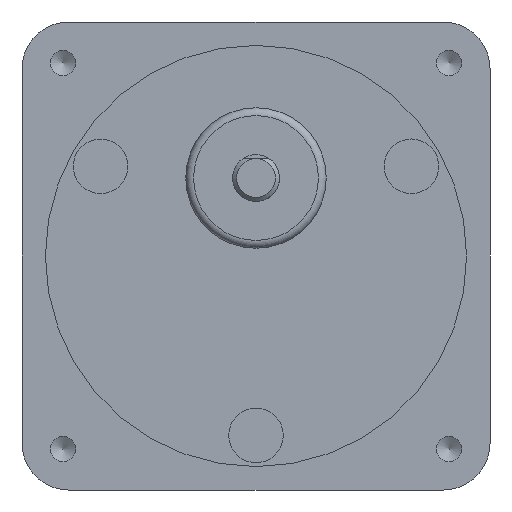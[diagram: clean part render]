
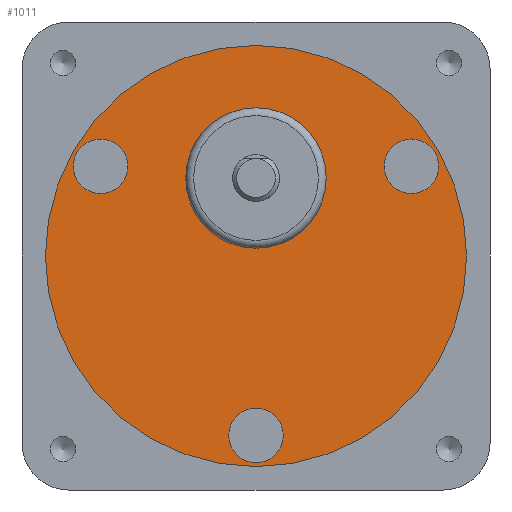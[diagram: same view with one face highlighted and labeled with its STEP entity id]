
A CAD part, front view. The second image highlights one B-rep face of the part: STEP entity #1011.
In plain terms, the highlighted planar face has unit normal (0, -1, 0).
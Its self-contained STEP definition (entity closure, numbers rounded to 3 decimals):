
#514=CARTESIAN_POINT('',(9.,-3.5,10.));
#515=VERTEX_POINT('',#514);
#516=CARTESIAN_POINT('',(0.,-3.5,10.));
#517=DIRECTION('',(0.0,-1.0,0.0));
#518=DIRECTION('',(-1.0,0.0,0.0));
#519=AXIS2_PLACEMENT_3D('',#516,#517,#518);
#520=CIRCLE('',#519,9.0);
#521=EDGE_CURVE('',#515,#515,#520,.T.);
#959=CARTESIAN_POINT('',(0.,-3.5,0.));
#960=DIRECTION('',(0.0,1.0,0.0));
#961=DIRECTION('',(0.0,0.0,1.0));
#962=AXIS2_PLACEMENT_3D('',#959,#960,#961);
#963=PLANE('',#962);
#964=CARTESIAN_POINT('',(27.,-3.5,0.));
#965=VERTEX_POINT('',#964);
#966=CARTESIAN_POINT('',(0.,-3.5,0.));
#967=DIRECTION('',(0.0,-1.0,0.0));
#968=DIRECTION('',(-1.0,0.0,0.0));
#969=AXIS2_PLACEMENT_3D('',#966,#967,#968);
#970=CIRCLE('',#969,27.0);
#971=EDGE_CURVE('',#965,#965,#970,.T.);
#972=ORIENTED_EDGE('',*,*,#971,.T.);
#973=EDGE_LOOP('',(#972));
#974=FACE_OUTER_BOUND('',#973,.T.);
#975=CARTESIAN_POINT('',(18.169,-3.5,14.531));
#976=VERTEX_POINT('',#975);
#977=CARTESIAN_POINT('',(19.919,-3.5,11.5));
#978=DIRECTION('',(0.0,1.0,0.0));
#979=DIRECTION('',(0.5,0.0,-0.866));
#980=AXIS2_PLACEMENT_3D('',#977,#978,#979);
#981=CIRCLE('',#980,3.5);
#982=EDGE_CURVE('',#976,#976,#981,.T.);
#983=ORIENTED_EDGE('',*,*,#982,.T.);
#984=EDGE_LOOP('',(#983));
#985=FACE_BOUND('',#984,.T.);
#986=CARTESIAN_POINT('',(-21.669,-3.5,8.469));
#987=VERTEX_POINT('',#986);
#988=CARTESIAN_POINT('',(-19.919,-3.5,11.5));
#989=DIRECTION('',(0.0,1.,0.0));
#990=DIRECTION('',(0.5,0.0,0.866));
#991=AXIS2_PLACEMENT_3D('',#988,#989,#990);
#992=CIRCLE('',#991,3.5);
#993=EDGE_CURVE('',#987,#987,#992,.T.);
#994=ORIENTED_EDGE('',*,*,#993,.T.);
#995=EDGE_LOOP('',(#994));
#996=FACE_BOUND('',#995,.T.);
#997=CARTESIAN_POINT('',(3.5,-3.5,-23.));
#998=VERTEX_POINT('',#997);
#999=CARTESIAN_POINT('',(0.,-3.5,-23.));
#1000=DIRECTION('',(0.0,1.0,0.0));
#1001=DIRECTION('',(-1.0,0.0,0.0));
#1002=AXIS2_PLACEMENT_3D('',#999,#1000,#1001);
#1003=CIRCLE('',#1002,3.5);
#1004=EDGE_CURVE('',#998,#998,#1003,.T.);
#1005=ORIENTED_EDGE('',*,*,#1004,.T.);
#1006=EDGE_LOOP('',(#1005));
#1007=FACE_BOUND('',#1006,.T.);
#1008=ORIENTED_EDGE('',*,*,#521,.F.);
#1009=EDGE_LOOP('',(#1008));
#1010=FACE_BOUND('',#1009,.T.);
#1011=ADVANCED_FACE('',(#974,#985,#996,#1007,#1010),#963,.F.);
